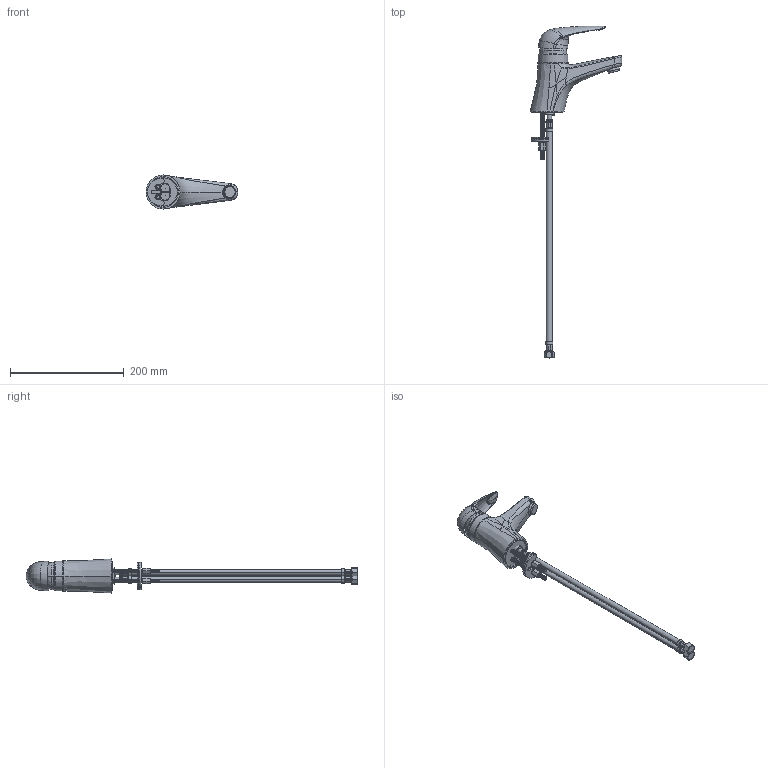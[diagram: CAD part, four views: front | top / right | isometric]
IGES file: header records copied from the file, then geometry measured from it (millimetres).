
Start section:  PTC IGES file: 410-t45ab_schedule_REV010318.igs
Global section: file name: 410-t45ab_schedule_REV010318.igs; native system: Creo Parametric by PTC Inc.; preprocessor: 2014500; author: dmisv; organization: Unknown; date: 20180103.141131; units: inch
Bounding box: 162 x 584.75 x 60 mm (x, y, z)
Surface area: 114119.3 mm2 (no closed solid volume)
Topology: 0 solids, 100 shells, 765 faces, 2445 edges, 1722 vertices
Faces by surface type: revolution 497, bspline 266, extrusion 2
